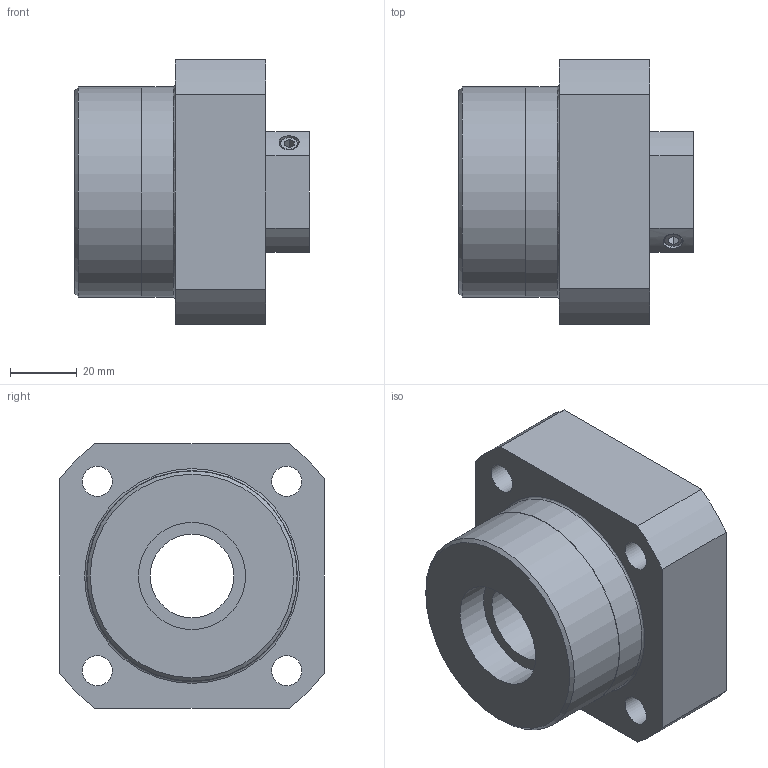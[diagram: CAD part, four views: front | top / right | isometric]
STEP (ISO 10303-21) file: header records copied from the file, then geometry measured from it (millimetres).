
FILE_DESCRIPTION((''),'2;1');
FILE_NAME('D:\製品 (図面)\カタログ用3D\ネジ関連\STEP形式\SUF\SUF25.stp','2010-06-02T14:49:28',('Tsuchiya'),(''),'Autodesk Inventor 10','Autodesk Inventor 10','');
FILE_SCHEMA(('AUTOMOTIVE_DESIGN { 1 0 10303 214 1 1 1 1 }'));
Length unit declared in the file: millimetre
Products named in the file (1): SUF25
Bounding box: 70 x 79 x 79 mm (x, y, z)
Volume: 217844.1 mm3; surface area: 40623.1 mm2
Topology: 1 solids, 1 shells, 104 faces, 225 edges, 148 vertices
Faces by surface type: plane 57, bspline 21, cylinder 20, torus 4, cone 2
Full cylindrical faces by diameter (mm): 6 x1, 13 x4, 25 x1, 32 x2, 34 x1, 45 x1, 62.8 x1, 63 x1
Entity records: 2977 total; most frequent: CARTESIAN_POINT 785, DIRECTION 430, ORIENTED_EDGE 388, EDGE_CURVE 194, EDGE_LOOP 170, AXIS2_PLACEMENT_3D 154, VERTEX_POINT 148, VECTOR 122
